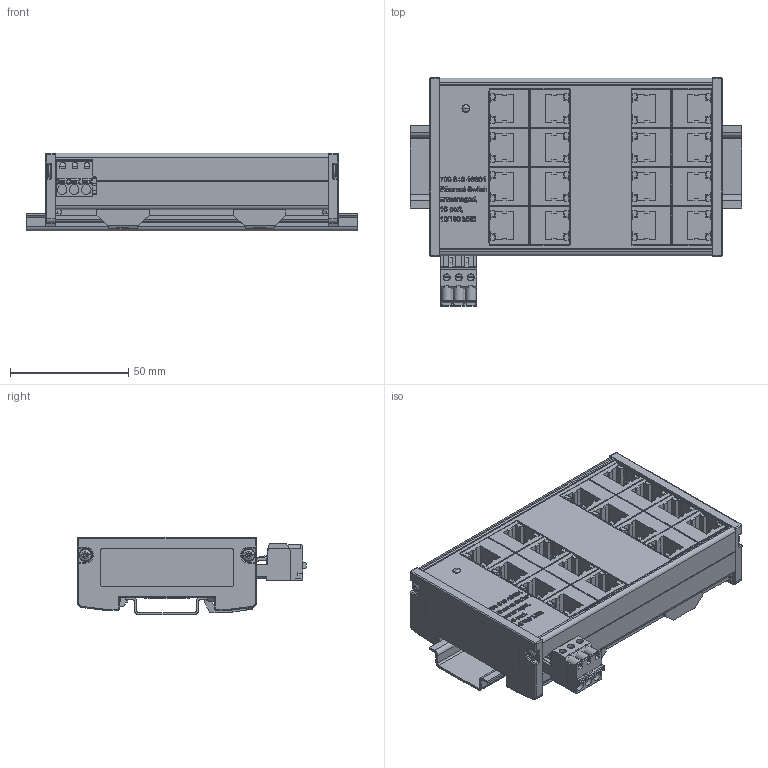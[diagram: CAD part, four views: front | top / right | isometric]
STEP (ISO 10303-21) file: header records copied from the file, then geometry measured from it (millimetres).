
FILE_DESCRIPTION (( 'STEP AP214' ), '1' );
FILE_NAME ('700-840-16S01 V 00-00 EPLAN.STEP', '2018-07-11T09:35:57', ( '' ), ( '' ), 'SwSTEP 2.0', 'SolidWorks 2018', '' );
FILE_SCHEMA (( 'AUTOMOTIVE_DESIGN' ));
Length unit declared in the file: millimetre
Products named in the file (13): X003-1-s-0p V00-00; ArtNr^700-840-16S01 V 00-00; BT-g-0009 V 00-00_cutout for 5.08 grid; g-alu-001 V01-01; Kopie von TH 35-7.5 V 00-00^700-840-16S01 V 00-00; m-k30x08-bj V 00-00; BT-g-0008 V 00-00; g-alu-002 V00-00; RJ45 180° Dummy V00-00; PLP2-xxx V00-11_PLP2-500; 700-840-16S01 V 00-00 EPLAN; m-k29x45V 00-00; b003-phx-03 V 00-00
Assembly tree (33 placements, depth 2):
  700-840-16S01 V 00-00 EPLAN
    BT-g-0009 V 00-00_cutout for 5.08 grid
    BT-g-0008 V 00-00
    Kopie von TH 35-7.5 V 00-00^700-840-16S01 V 00-00
    g-alu-001 V01-01  x2
    m-k30x08-bj V 00-00  x4
    g-alu-002 V00-00  x2
    m-k29x45V 00-00  x2
    ArtNr^700-840-16S01 V 00-00
    PLP2-xxx V00-11_PLP2-500
    b003-phx-03 V 00-00
    RJ45 180° Dummy V00-00  x16
    X003-1-s-0p V00-00
Bounding box: 140 x 96.52 x 32.9 mm (x, y, z)
Volume: 106131.2 mm3; surface area: 113446.7 mm2
Topology: 92 solids, 92 shells, 2978 faces, 7786 edges, 5076 vertices
Faces by surface type: plane 1933, bspline 560, cylinder 321, cone 138, sphere 22, torus 4
Entity records: 84451 total; most frequent: CARTESIAN_POINT 40657, ORIENTED_EDGE 9640, DIRECTION 7176, EDGE_CURVE 4820, VECTOR 3242, LINE 3242, VERTEX_POINT 3170, AXIS2_PLACEMENT_3D 1967
